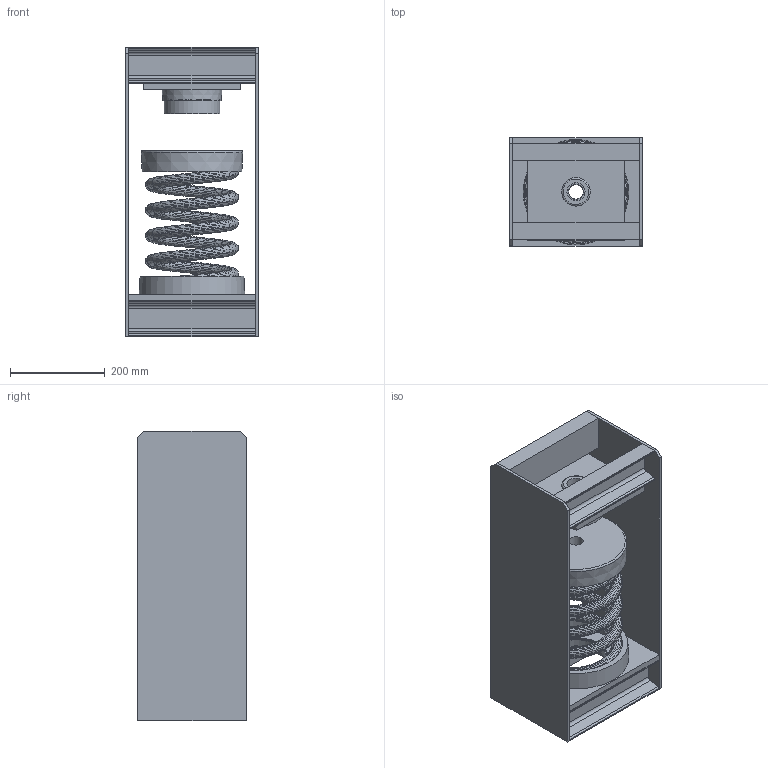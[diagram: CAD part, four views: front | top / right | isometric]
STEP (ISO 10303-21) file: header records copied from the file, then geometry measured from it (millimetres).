
FILE_DESCRIPTION(/* description */ (''),/* implementation_level */ '2;1');
FILE_NAME(/* name */ 'C:\001_Work\Designs\HANGER BOXES\30N 100 SERIES\30N-137-138, 160-161\30N-161.stp',/* time_stamp */ '2015-06-01T11:29:02-04:00',/* author */ ('rramoutar'),/* organization */ ('Mason Industries Inc.'),/* preprocessor_version */ 'ST-DEVELOPER v15.2',/* originating_system */ 'Autodesk Inventor 2014',/* authorisation */ '');
FILE_SCHEMA (('AUTOMOTIVE_DESIGN { 1 0 10303 214 3 1 1 }'));
Products named in the file (1): 30N-161
Bounding box: 279.4 x 228.6 x 609.6 mm (x, y, z)
Volume: 5419773.1 mm3; surface area: 1908570.8 mm2
Topology: 15 solids, 15 shells, 718 faces, 1512 edges, 837 vertices
Faces by surface type: bspline 496, plane 163, cylinder 42, cone 15, torus 2
Full cylindrical faces by diameter (mm): 30.162 x1, 31.75 x1, 38.1 x2, 47.625 x4, 60.325 x1, 107.95 x2, 117.475 x1, 122.237 x2, 127 x1, 131.762 x1, 133.35 x2, 136.525 x2, 195.262 x1, 200.025 x2, 201.612 x1
Entity records: 38342 total; most frequent: CARTESIAN_POINT 26168, ORIENTED_EDGE 2960, EDGE_CURVE 1480, B_SPLINE_CURVE_WITH_KNOTS 1000, DIRECTION 996, VERTEX_POINT 834, EDGE_LOOP 778, STYLED_ITEM 733
